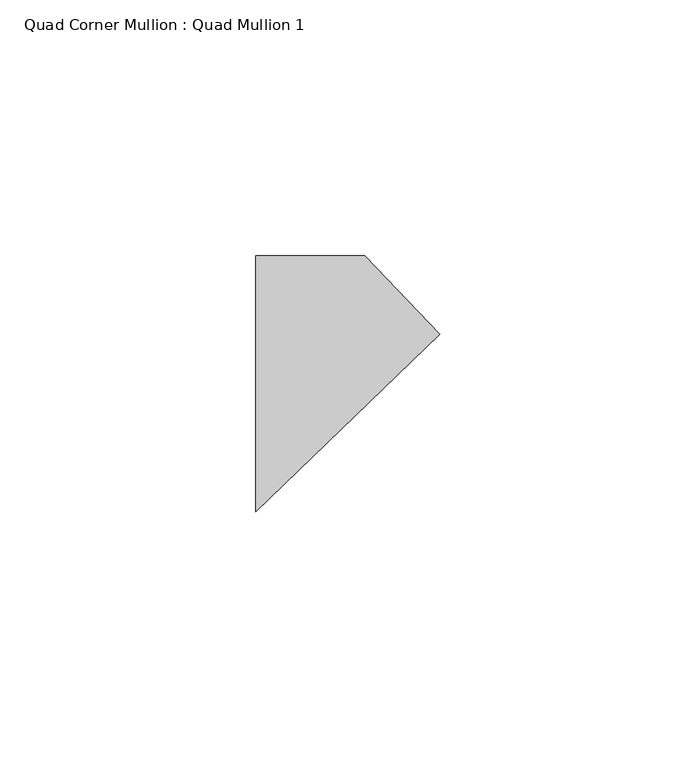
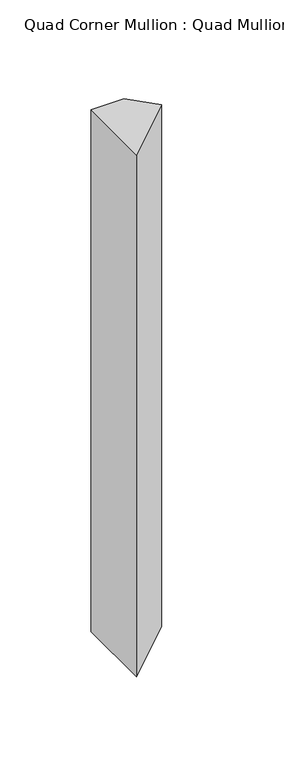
"""IFC4 building model written with IfcOpenShell, lengths in millimetres: member geometry, Quad Corner Mullion : Quad Mullion 1."""

from ifc_helpers import new_model, si_unit, frame, origin, place, context, project, spatial, polyline, outline, extrude, source, transform, mapped, element, save


def quad_corner_mullion_quad_mullion_1_520362d8(model_context):
    return source(origin(), model_context, "Body", "SweptSolid", [
        extrude(outline(polyline([(25.3551196, 9.7329185), (-10.6118704, -25.0), (-10.6118704, 25.0), (10.6118704, 25.0), (25.3551196, 9.7329185)])), frame((0.0, 0.0, -350.0), z_axis=(0.0, 0.0, 1.0), x_axis=(1.0, 0.0, 0.0)), (0.0, 0.0, 1.0), 350.0),
    ])


if __name__ == "__main__":
    model = new_model("IFC4")
    model_context = context("Model", 3, world=origin())
    ifc_project = project(units=[si_unit("LENGTHUNIT", "METRE", prefix="MILLI")], contexts=[model_context])
    site = spatial("IfcSite", under=ifc_project)
    building = spatial("IfcBuilding", under=site)
    placement = place(None, origin())
    quad_corner_mullion_quad_mullion_1_shape = quad_corner_mullion_quad_mullion_1_520362d8(model_context)
    element("IfcMember", 1, ObjectType="Quad Corner Mullion : Quad Mullion 1", at=placement, inside=building, context=model_context, shape_type="MappedRepresentation", body=[
        mapped(quad_corner_mullion_quad_mullion_1_shape, transform((0.0, 0.0, 0.0), x_axis=(1.0, 0.0, 0.0), y_axis=(0.0, 1.0, 0.0), z_axis=(0.0, 0.0, 1.0))),
    ])
    save(model, "model.ifc")
